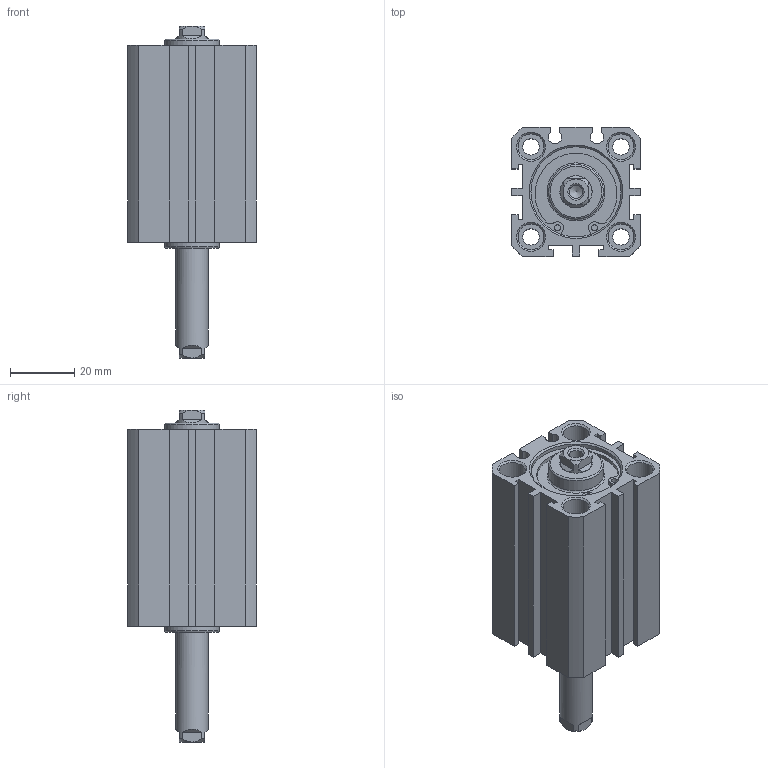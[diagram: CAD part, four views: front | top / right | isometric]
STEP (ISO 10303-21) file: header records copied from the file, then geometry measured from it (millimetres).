
FILE_DESCRIPTION((''),'2;1');
FILE_NAME('I:\3D電子目錄\氣缸\JDD\JDD-S\JDD25-S\JDD25x30-S.stp','2007-02-08T14:25:17',('662F206'),(''),'Autodesk Inventor 10','Autodesk Inventor 10','');
FILE_SCHEMA(('AUTOMOTIVE_DESIGN { 1 0 10303 214 1 1 1 1 }'));
Length unit declared in the file: millimetre
Products named in the file (3): JDD25-S; R 形環 28
Assembly tree (3 placements, depth 2):
  JDD25-S
    JDD25-S
    R 形環 28  x2
Bounding box: 40 x 40 x 103.2 mm (x, y, z)
Volume: 81351.1 mm3; surface area: 25059.8 mm2
Topology: 3 solids, 3 shells, 172 faces, 410 edges, 266 vertices
Faces by surface type: plane 92, cylinder 46, cone 22, bspline 10, torus 2
Full cylindrical faces by diameter (mm): 1.5 x2, 1.9 x4, 5.1 x4, 8 x8, 10 x2, 17 x2, 28 x4, 29.4 x2
Entity records: 4529 total; most frequent: CARTESIAN_POINT 950, DIRECTION 740, ORIENTED_EDGE 640, EDGE_CURVE 320, AXIS2_PLACEMENT_3D 280, EDGE_LOOP 244, VERTEX_POINT 236, VECTOR 180
